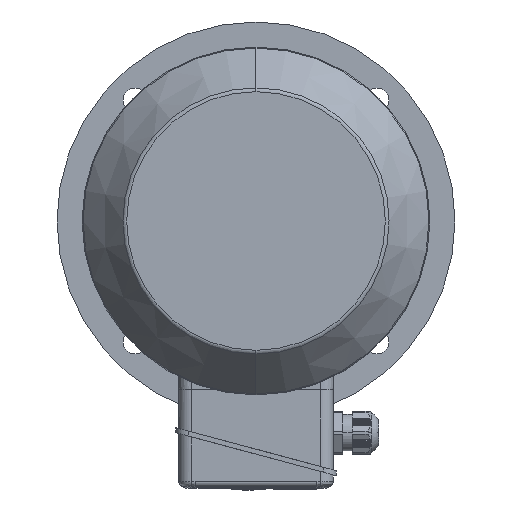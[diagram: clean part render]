
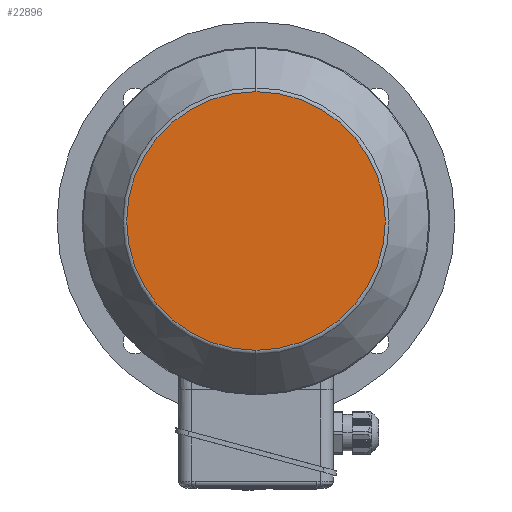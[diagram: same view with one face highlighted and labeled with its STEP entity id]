
A CAD part, left-side view. The second image highlights one B-rep face of the part: STEP entity #22896.
In plain terms, the highlighted planar face has unit normal (-1, 0, 0).
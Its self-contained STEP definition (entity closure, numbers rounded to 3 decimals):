
#2231 = DIRECTION ( 'NONE',  ( 0., 0., -1. ) ) ;
#11197 = DIRECTION ( 'NONE',  ( -1., 0., 0. ) ) ;
#11210 = CARTESIAN_POINT ( 'NONE',  ( -198.75, 0., -81.227 ) ) ;
#12120 = CIRCLE ( 'NONE', #27133, 81.227 ) ;
#14345 = AXIS2_PLACEMENT_3D ( 'NONE', #11210, #11197, #22562 ) ;
#14593 = DIRECTION ( 'NONE',  ( 1., 0., 0. ) ) ;
#22562 = DIRECTION ( 'NONE',  ( 0., 1., 0. ) ) ;
#22649 = ORIENTED_EDGE ( 'NONE', *, *, #35932, .F. ) ;
#22896 = ADVANCED_FACE ( 'NONE', ( #33014 ), #34037, .T. ) ;
#24799 = CARTESIAN_POINT ( 'NONE',  ( -198.75, 0., 81.227 ) ) ;
#25196 = DIRECTION ( 'NONE',  ( 1., 0., 0. ) ) ;
#26477 = EDGE_LOOP ( 'NONE', ( #22649, #30606 ) ) ;
#27133 = AXIS2_PLACEMENT_3D ( 'NONE', #35875, #14593, #2231 ) ;
#30606 = ORIENTED_EDGE ( 'NONE', *, *, #35726, .F. ) ;
#32334 = AXIS2_PLACEMENT_3D ( 'NONE', #37072, #25196, #37341 ) ;
#33014 = FACE_OUTER_BOUND ( 'NONE', #26477, .T. ) ;
#34037 = PLANE ( 'NONE',  #14345 ) ;
#34472 = VERTEX_POINT ( 'NONE', #36528 ) ;
#34799 = CIRCLE ( 'NONE', #32334, 81.227 ) ;
#35726 = EDGE_CURVE ( 'NONE', #37744, #34472, #12120, .T. ) ;
#35875 = CARTESIAN_POINT ( 'NONE',  ( -198.75, 0., 0. ) ) ;
#35932 = EDGE_CURVE ( 'NONE', #34472, #37744, #34799, .T. ) ;
#36528 = CARTESIAN_POINT ( 'NONE',  ( -198.75, 0., -81.227 ) ) ;
#37072 = CARTESIAN_POINT ( 'NONE',  ( -198.75, 0., 0. ) ) ;
#37341 = DIRECTION ( 'NONE',  ( 0., 0., -1. ) ) ;
#37744 = VERTEX_POINT ( 'NONE', #24799 ) ;
